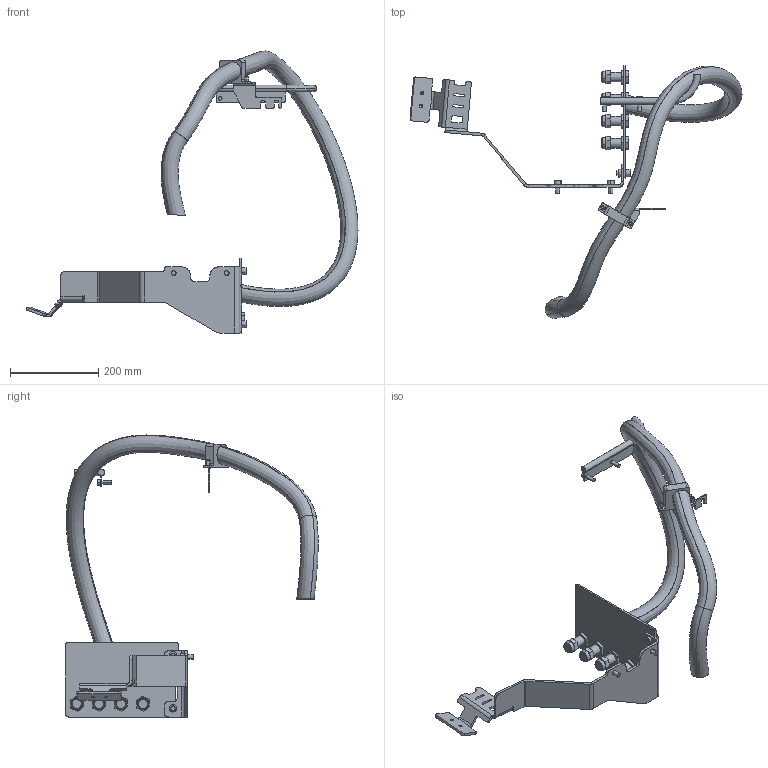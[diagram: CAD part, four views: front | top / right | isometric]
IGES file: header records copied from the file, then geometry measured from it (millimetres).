
Start section: SolidWorks IGES file using analytic representation for surfaces
Global section: file name: C:\Data\SAP_DOC\LW\IRB 6720\IRB6720-LID-MH_140kg-320_OC_01_SW_J\IRB6720-LID-MH_140kg-320_OC_01_IGES_J\IRB6720-LID-MH_140kg-320_OC_00_LINK03a_CABLE.igs; native system: SolidWorks 2024; preprocessor: SolidWorks 2024; author: SEJOVAS3; date: 260610.140009; units: millimetre
Bounding box: 752.9 x 572.21 x 639.56 mm (x, y, z)
Surface area: 471951 mm2 (no closed solid volume)
Topology: 0 solids, 0 shells, 497 faces, 6964 edges, 6964 vertices
Faces by surface type: bspline 307, revolution 190
